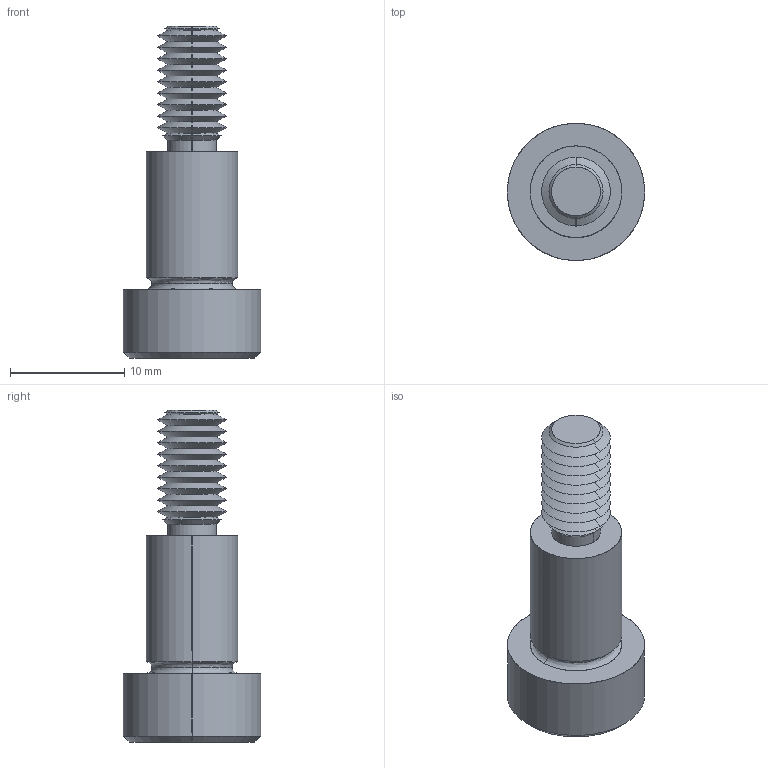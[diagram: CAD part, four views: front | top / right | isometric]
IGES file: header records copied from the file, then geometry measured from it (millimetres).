
Start section: SolidWorks IGES file using analytic representation for surfaces
Global section: file name: C:\Users\IanO\Documents\Temp Folder\GENERAL\SCREW REVISION\P0130_v2\P0130.T5_v2_20220106_IGES\P0130.080-012-T5.igs; native system: SolidWorks 2019; preprocessor: SolidWorks 2019; author: IanO; date: 220106.223230; units: millimetre
Bounding box: 12 x 12 x 29 mm (x, y, z)
Surface area: 1137.8 mm2 (no closed solid volume)
Topology: 0 solids, 0 shells, 80 faces, 580 edges, 578 vertices
Faces by surface type: revolution 60, bspline 20
